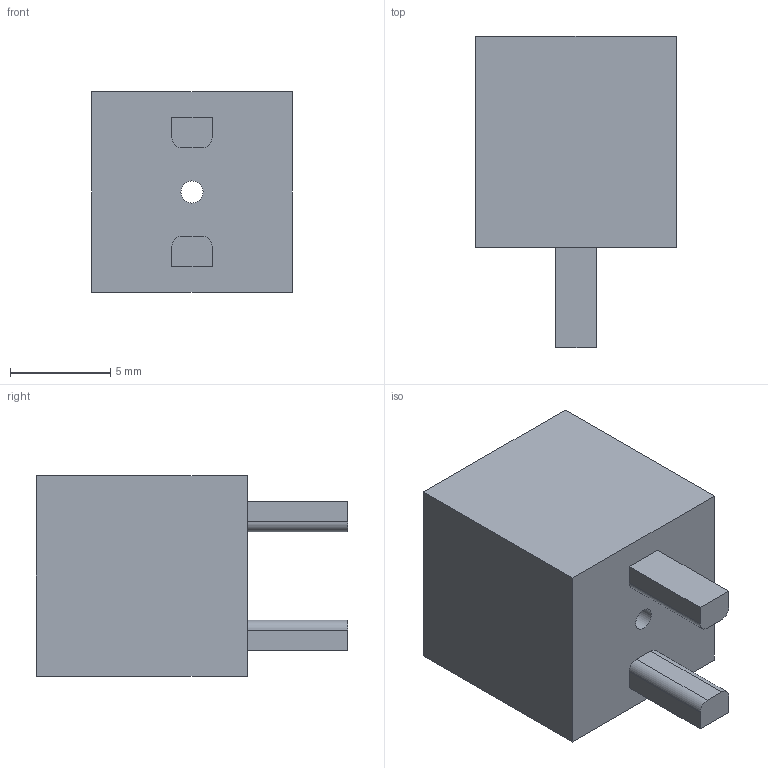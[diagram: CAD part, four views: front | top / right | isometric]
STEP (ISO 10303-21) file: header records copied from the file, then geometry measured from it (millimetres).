
FILE_DESCRIPTION(/* description */ (''),/* implementation_level */ '2;1');
FILE_NAME(/* name */ '_Supp_Fibra_1mm_optimized.step',/* time_stamp */ '2023-03-13T17:28:50+01:00',/* author */ (''),/* organization */ (''),/* preprocessor_version */ 'ST-DEVELOPER v19.2',/* originating_system */ 'Autodesk Translation Framework v11.17.0.187',/* authorisation */ '');
FILE_SCHEMA (('AUTOMOTIVE_DESIGN { 1 0 10303 214 3 1 1 }'));
Length unit declared in the file: millimetre
Products named in the file (1): _Supp_Fibra_1mm_optimized
Bounding box: 10 x 15.5 x 10 mm (x, y, z)
Volume: 1068.9 mm3; surface area: 720.1 mm2
Topology: 1 solids, 1 shells, 21 faces, 51 edges, 34 vertices
Faces by surface type: plane 16, cylinder 5
Full cylindrical faces by diameter (mm): 1.1 x1
Entity records: 652 total; most frequent: CARTESIAN_POINT 107, DIRECTION 105, ORIENTED_EDGE 102, EDGE_CURVE 51, LINE 41, VECTOR 41, VERTEX_POINT 34, AXIS2_PLACEMENT_3D 32
